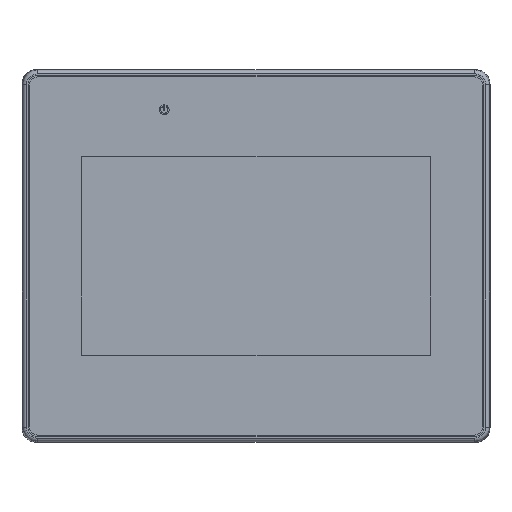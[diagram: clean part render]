
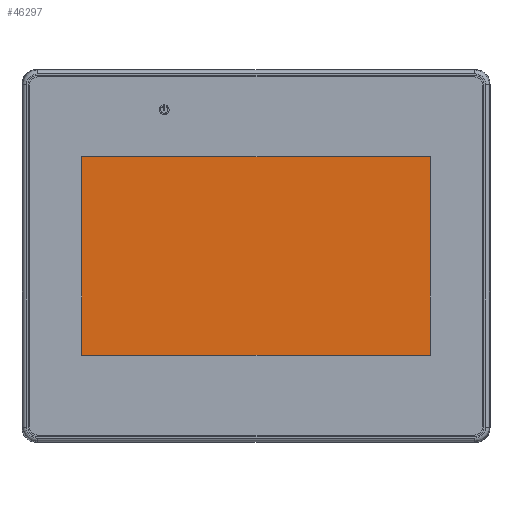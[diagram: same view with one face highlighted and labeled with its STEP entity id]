
A CAD part, top view. The second image highlights one B-rep face of the part: STEP entity #46297.
In plain terms, the highlighted planar face has unit normal (0, 0, 1).
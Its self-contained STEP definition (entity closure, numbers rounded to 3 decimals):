
#5229 = VECTOR ( 'NONE', #95217, 1000. ) ;
#7857 = DIRECTION ( 'NONE',  ( 1., 0., 0. ) ) ;
#9570 = CARTESIAN_POINT ( 'NONE',  ( -59.675, -27.1, -0.32 ) ) ;
#12392 = LINE ( 'NONE', #149665, #39511 ) ;
#12553 = EDGE_LOOP ( 'NONE', ( #117903, #114895, #199562, #131031 ) ) ;
#34266 = VECTOR ( 'NONE', #7857, 1000. ) ;
#39511 = VECTOR ( 'NONE', #215460, 1000. ) ;
#40645 = CARTESIAN_POINT ( 'NONE',  ( 47.7, -27.1, -0.32 ) ) ;
#40743 = EDGE_CURVE ( 'NONE', #47997, #151398, #40912, .T. ) ;
#40912 = LINE ( 'NONE', #194566, #34266 ) ;
#46297 = ADVANCED_FACE ( 'NONE', ( #195724 ), #60756, .T. ) ;
#47997 = VERTEX_POINT ( 'NONE', #165339 ) ;
#60756 = PLANE ( 'NONE',  #191757 ) ;
#62567 = EDGE_CURVE ( 'NONE', #110824, #197877, #162237, .T. ) ;
#64096 = CARTESIAN_POINT ( 'NONE',  ( -47.7, 46.675, -0.32 ) ) ;
#76117 = DIRECTION ( 'NONE',  ( 0., 0., 1. ) ) ;
#90664 = VECTOR ( 'NONE', #114568, 1000. ) ;
#95217 = DIRECTION ( 'NONE',  ( -1., 0., 0. ) ) ;
#99211 = LINE ( 'NONE', #64096, #90664 ) ;
#104430 = CARTESIAN_POINT ( 'NONE',  ( -47.7, -27.1, -0.32 ) ) ;
#110824 = VERTEX_POINT ( 'NONE', #40645 ) ;
#114568 = DIRECTION ( 'NONE',  ( 0., 1., 0. ) ) ;
#114895 = ORIENTED_EDGE ( 'NONE', *, *, #62567, .F. ) ;
#117903 = ORIENTED_EDGE ( 'NONE', *, *, #119637, .F. ) ;
#119637 = EDGE_CURVE ( 'NONE', #197877, #47997, #99211, .T. ) ;
#131031 = ORIENTED_EDGE ( 'NONE', *, *, #40743, .F. ) ;
#149665 = CARTESIAN_POINT ( 'NONE',  ( 47.7, 46.675, -0.32 ) ) ;
#151398 = VERTEX_POINT ( 'NONE', #186725 ) ;
#162237 = LINE ( 'NONE', #9570, #5229 ) ;
#165339 = CARTESIAN_POINT ( 'NONE',  ( -47.7, 27.1, -0.32 ) ) ;
#185442 = EDGE_CURVE ( 'NONE', #151398, #110824, #12392, .T. ) ;
#186725 = CARTESIAN_POINT ( 'NONE',  ( 47.7, 27.1, -0.32 ) ) ;
#191757 = AXIS2_PLACEMENT_3D ( 'NONE', #193583, #76117, #194672 ) ;
#193583 = CARTESIAN_POINT ( 'NONE',  ( -59.675, 46.675, -0.32 ) ) ;
#194566 = CARTESIAN_POINT ( 'NONE',  ( -59.675, 27.1, -0.32 ) ) ;
#194672 = DIRECTION ( 'NONE',  ( 1., 0., 0. ) ) ;
#195724 = FACE_OUTER_BOUND ( 'NONE', #12553, .T. ) ;
#197877 = VERTEX_POINT ( 'NONE', #104430 ) ;
#199562 = ORIENTED_EDGE ( 'NONE', *, *, #185442, .F. ) ;
#215460 = DIRECTION ( 'NONE',  ( 0., -1., 0. ) ) ;
